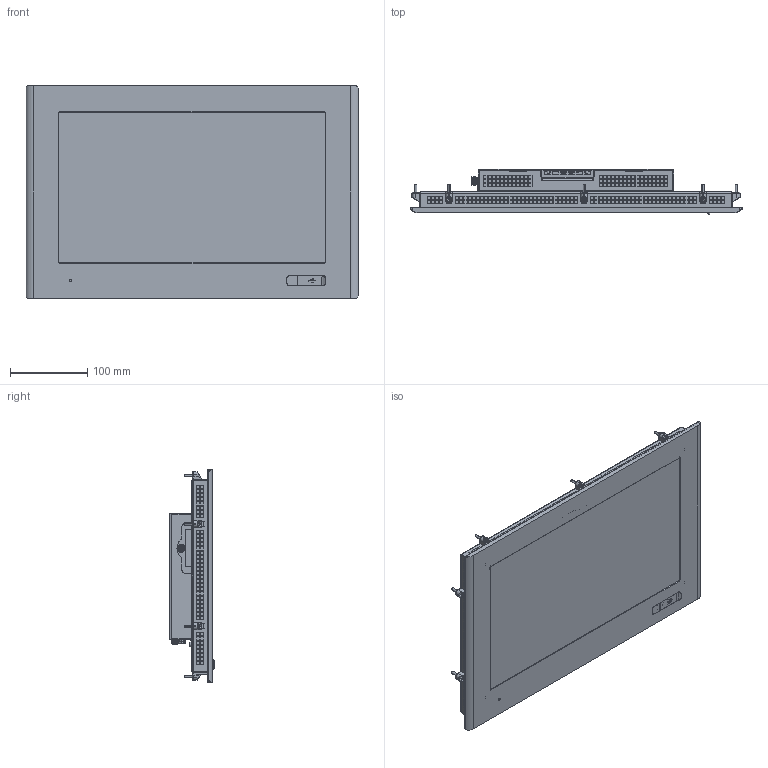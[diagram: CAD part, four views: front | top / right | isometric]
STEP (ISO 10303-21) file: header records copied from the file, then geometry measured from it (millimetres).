
FILE_DESCRIPTION((''),'2;1');
FILE_NAME('C6E22-Panel_156W_RES_SL','2017-03-07T',('manpal'),(''),'PRO/ENGINEER BY PARAMETRIC TECHNOLOGY CORPORATION, 2013410','PRO/ENGINEER BY PARAMETRIC TECHNOLOGY CORPORATION, 2013410','');
FILE_SCHEMA(('AUTOMOTIVE_DESIGN { 1 0 10303 214 1 1 1 1 }'));
Products named in the file (3): C6E22-Panel_156W_RES_SL_
Assembly tree (2 placements, depth 2):
  C6E22-Panel_156W_RES_SL_
    C6E22-Panel_156W_RES_SL_
    C6E22-Panel_156W_RES_SL_
Bounding box: 430 x 58.34 x 275 mm (x, y, z)
Surface area: 699720.5 mm2 (no closed solid volume)
Topology: 0 solids, 369 shells, 5113 faces, 20664 edges, 15747 vertices
Faces by surface type: plane 4024, cylinder 659, cone 241, bspline 112, torus 46, sphere 27, extrusion 4
Entity records: 239685 total; most frequent: CARTESIAN_POINT 53404, DIRECTION 32584, ORIENTED_EDGE 30067, EDGE_CURVE 20618, VECTOR 16472, LINE 16468, VERTEX_POINT 15747, AXIS2_PLACEMENT_3D 8056
